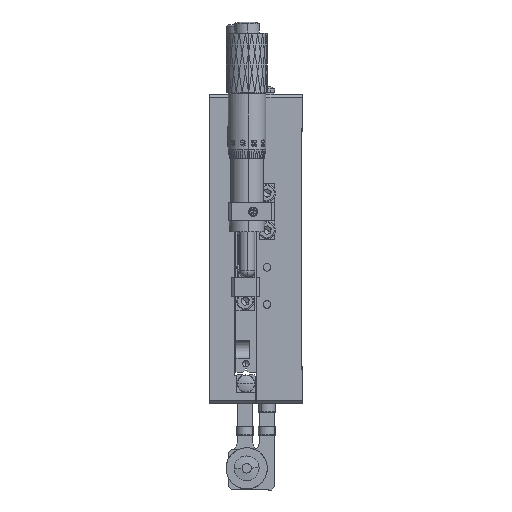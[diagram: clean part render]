
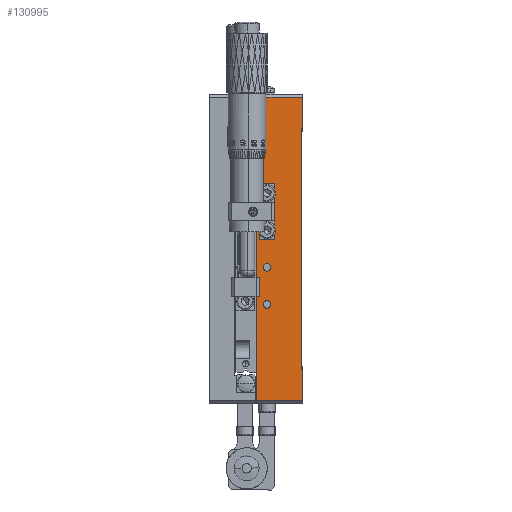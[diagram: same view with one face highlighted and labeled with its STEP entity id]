
A CAD part, left-side view. The second image highlights one B-rep face of the part: STEP entity #130995.
In plain terms, the highlighted planar face has unit normal (-1, 0, 0).
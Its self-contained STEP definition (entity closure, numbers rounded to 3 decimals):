
#444 = EDGE_CURVE ( 'NONE', #167606, #164506, #120265, .T. ) ;
#3139 = DIRECTION ( 'NONE',  ( 0., 1., 0. ) ) ;
#3412 = CARTESIAN_POINT ( 'NONE',  ( 4.935, 99.969, 112.083 ) ) ;
#3823 = CIRCLE ( 'NONE', #29826, 1.25 ) ;
#4065 = VECTOR ( 'NONE', #3139, 1000. ) ;
#4152 = VERTEX_POINT ( 'NONE', #114587 ) ;
#5233 = CARTESIAN_POINT ( 'NONE',  ( 4.935, 96.669, 66.833 ) ) ;
#6429 = LINE ( 'NONE', #3412, #172275 ) ;
#7164 = CARTESIAN_POINT ( 'NONE',  ( 4.935, 85.619, 23.083 ) ) ;
#9481 = AXIS2_PLACEMENT_3D ( 'NONE', #76870, #138975, #201202 ) ;
#11038 = DIRECTION ( 'NONE',  ( 0., 0., -1. ) ) ;
#12181 = CARTESIAN_POINT ( 'NONE',  ( 4.935, 96.669, 42.833 ) ) ;
#13773 = VECTOR ( 'NONE', #137700, 1000. ) ;
#13946 = FACE_BOUND ( 'NONE', #64406, .T. ) ;
#14056 = CARTESIAN_POINT ( 'NONE',  ( 4.935, 96.669, 68.083 ) ) ;
#15086 = AXIS2_PLACEMENT_3D ( 'NONE', #81365, #176141, #79383 ) ;
#15745 = ORIENTED_EDGE ( 'NONE', *, *, #99794, .F. ) ;
#16960 = PLANE ( 'NONE',  #71307 ) ;
#18373 = VECTOR ( 'NONE', #50839, 1000. ) ;
#19486 = CIRCLE ( 'NONE', #91055, 1.25 ) ;
#20090 = ORIENTED_EDGE ( 'NONE', *, *, #59194, .T. ) ;
#20189 = EDGE_CURVE ( 'NONE', #105071, #180792, #44476, .T. ) ;
#22303 = CARTESIAN_POINT ( 'NONE',  ( 4.935, 96.669, 69.333 ) ) ;
#26700 = ORIENTED_EDGE ( 'NONE', *, *, #130347, .T. ) ;
#27144 = CIRCLE ( 'NONE', #88962, 1.25 ) ;
#27810 = ORIENTED_EDGE ( 'NONE', *, *, #201625, .F. ) ;
#28064 = CARTESIAN_POINT ( 'NONE',  ( 4.935, 85.219, 112.083 ) ) ;
#28172 = EDGE_LOOP ( 'NONE', ( #15745, #20090, #123977, #152128, #164662, #143104, #26700, #97115 ) ) ;
#29082 = ORIENTED_EDGE ( 'NONE', *, *, #20189, .F. ) ;
#29826 = AXIS2_PLACEMENT_3D ( 'NONE', #107235, #139832, #62390 ) ;
#29950 = CIRCLE ( 'NONE', #173277, 1.25 ) ;
#30823 = CARTESIAN_POINT ( 'NONE',  ( 4.935, 96.669, 80.083 ) ) ;
#34252 = CARTESIAN_POINT ( 'NONE',  ( 4.935, 96.669, 45.333 ) ) ;
#35068 = AXIS2_PLACEMENT_3D ( 'NONE', #14056, #167971, #11038 ) ;
#38534 = DIRECTION ( 'NONE',  ( 0., 0., -1. ) ) ;
#39543 = CARTESIAN_POINT ( 'NONE',  ( 4.935, 85.219, 13.083 ) ) ;
#42971 = CARTESIAN_POINT ( 'NONE',  ( 4.935, 85.219, 111.083 ) ) ;
#43170 = VECTOR ( 'NONE', #38534, 1000. ) ;
#43926 = EDGE_CURVE ( 'NONE', #86201, #82526, #139215, .T. ) ;
#44476 = CIRCLE ( 'NONE', #15086, 1.25 ) ;
#44848 = VERTEX_POINT ( 'NONE', #154724 ) ;
#50839 = DIRECTION ( 'NONE',  ( 0., 0., -1. ) ) ;
#51663 = CIRCLE ( 'NONE', #9481, 1.25 ) ;
#51996 = LINE ( 'NONE', #7164, #4065 ) ;
#52860 = LINE ( 'NONE', #115012, #18373 ) ;
#55172 = VERTEX_POINT ( 'NONE', #77590 ) ;
#58118 = DIRECTION ( 'NONE',  ( 0., -1., 0. ) ) ;
#59047 = CARTESIAN_POINT ( 'NONE',  ( 4.935, 85.219, 23.083 ) ) ;
#59054 = EDGE_CURVE ( 'NONE', #195081, #55172, #60232, .T. ) ;
#59194 = EDGE_CURVE ( 'NONE', #191410, #89960, #51996, .T. ) ;
#60232 = LINE ( 'NONE', #200922, #13773 ) ;
#62390 = DIRECTION ( 'NONE',  ( 0., 0., -1. ) ) ;
#63562 = VERTEX_POINT ( 'NONE', #107153 ) ;
#64406 = EDGE_LOOP ( 'NONE', ( #27810, #159505 ) ) ;
#69135 = LINE ( 'NONE', #115970, #43170 ) ;
#71307 = AXIS2_PLACEMENT_3D ( 'NONE', #93398, #169888, #155589 ) ;
#74693 = EDGE_LOOP ( 'NONE', ( #112264, #181137 ) ) ;
#76141 = FACE_OUTER_BOUND ( 'NONE', #28172, .T. ) ;
#76870 = CARTESIAN_POINT ( 'NONE',  ( 4.935, 96.669, 56.083 ) ) ;
#77590 = CARTESIAN_POINT ( 'NONE',  ( 4.935, 85.219, 101.083 ) ) ;
#78464 = AXIS2_PLACEMENT_3D ( 'NONE', #132037, #148348, #86176 ) ;
#79383 = DIRECTION ( 'NONE',  ( 0., 0., -1. ) ) ;
#81103 = EDGE_CURVE ( 'NONE', #82526, #86201, #27144, .T. ) ;
#81365 = CARTESIAN_POINT ( 'NONE',  ( 4.935, 96.669, 44.083 ) ) ;
#82526 = VERTEX_POINT ( 'NONE', #22303 ) ;
#86176 = DIRECTION ( 'NONE',  ( 0., 0., -1. ) ) ;
#86201 = VERTEX_POINT ( 'NONE', #5233 ) ;
#88962 = AXIS2_PLACEMENT_3D ( 'NONE', #160125, #191713, #130530 ) ;
#89638 = VECTOR ( 'NONE', #105113, 1000. ) ;
#89960 = VERTEX_POINT ( 'NONE', #121644 ) ;
#91055 = AXIS2_PLACEMENT_3D ( 'NONE', #30823, #155150, #163201 ) ;
#93398 = CARTESIAN_POINT ( 'NONE',  ( 4.935, 85.219, 112.083 ) ) ;
#97115 = ORIENTED_EDGE ( 'NONE', *, *, #444, .T. ) ;
#99794 = EDGE_CURVE ( 'NONE', #191410, #164506, #52860, .T. ) ;
#100776 = EDGE_LOOP ( 'NONE', ( #152330, #142006 ) ) ;
#105071 = VERTEX_POINT ( 'NONE', #12181 ) ;
#105113 = DIRECTION ( 'NONE',  ( 0., 1., 0. ) ) ;
#107153 = CARTESIAN_POINT ( 'NONE',  ( 4.935, 85.219, 111.083 ) ) ;
#107235 = CARTESIAN_POINT ( 'NONE',  ( 4.935, 96.669, 56.083 ) ) ;
#107759 = VERTEX_POINT ( 'NONE', #180725 ) ;
#108690 = FACE_BOUND ( 'NONE', #150842, .T. ) ;
#109679 = FACE_BOUND ( 'NONE', #100776, .T. ) ;
#111971 = VECTOR ( 'NONE', #200318, 1000. ) ;
#112264 = ORIENTED_EDGE ( 'NONE', *, *, #115364, .F. ) ;
#113954 = EDGE_CURVE ( 'NONE', #180792, #105071, #140257, .T. ) ;
#114587 = CARTESIAN_POINT ( 'NONE',  ( 4.935, 96.669, 57.333 ) ) ;
#115012 = CARTESIAN_POINT ( 'NONE',  ( 4.935, 85.219, 112.083 ) ) ;
#115364 = EDGE_CURVE ( 'NONE', #145741, #4152, #3823, .T. ) ;
#115970 = CARTESIAN_POINT ( 'NONE',  ( 4.935, 85.619, 12.083 ) ) ;
#118554 = CARTESIAN_POINT ( 'NONE',  ( 4.935, 96.669, 54.833 ) ) ;
#120265 = LINE ( 'NONE', #150886, #162204 ) ;
#121644 = CARTESIAN_POINT ( 'NONE',  ( 4.935, 85.619, 23.083 ) ) ;
#123977 = ORIENTED_EDGE ( 'NONE', *, *, #142770, .F. ) ;
#125411 = CARTESIAN_POINT ( 'NONE',  ( 4.935, 96.669, 80.083 ) ) ;
#126068 = EDGE_CURVE ( 'NONE', #4152, #145741, #51663, .T. ) ;
#127425 = DIRECTION ( 'NONE',  ( 0., 0., -1. ) ) ;
#130347 = EDGE_CURVE ( 'NONE', #44848, #167606, #6429, .T. ) ;
#130530 = DIRECTION ( 'NONE',  ( 0., 0., -1. ) ) ;
#130995 = ADVANCED_FACE ( 'NONE', ( #13946, #109679, #200474, #108690, #76141 ), #16960, .F. ) ;
#132037 = CARTESIAN_POINT ( 'NONE',  ( 4.935, 96.669, 44.083 ) ) ;
#137700 = DIRECTION ( 'NONE',  ( 0., -1., 0. ) ) ;
#138975 = DIRECTION ( 'NONE',  ( -1., 0., 0. ) ) ;
#139215 = CIRCLE ( 'NONE', #35068, 1.25 ) ;
#139832 = DIRECTION ( 'NONE',  ( -1., 0., 0. ) ) ;
#140257 = CIRCLE ( 'NONE', #78464, 1.25 ) ;
#142006 = ORIENTED_EDGE ( 'NONE', *, *, #81103, .F. ) ;
#142770 = EDGE_CURVE ( 'NONE', #195081, #89960, #69135, .T. ) ;
#143104 = ORIENTED_EDGE ( 'NONE', *, *, #179781, .T. ) ;
#145437 = EDGE_CURVE ( 'NONE', #63562, #55172, #171737, .T. ) ;
#145741 = VERTEX_POINT ( 'NONE', #118554 ) ;
#148348 = DIRECTION ( 'NONE',  ( -1., 0., 0. ) ) ;
#150842 = EDGE_LOOP ( 'NONE', ( #29082, #179047 ) ) ;
#150886 = CARTESIAN_POINT ( 'NONE',  ( 4.935, 85.219, 13.083 ) ) ;
#152128 = ORIENTED_EDGE ( 'NONE', *, *, #59054, .T. ) ;
#152330 = ORIENTED_EDGE ( 'NONE', *, *, #43926, .F. ) ;
#154724 = CARTESIAN_POINT ( 'NONE',  ( 4.935, 99.969, 111.083 ) ) ;
#155150 = DIRECTION ( 'NONE',  ( -1., 0., 0. ) ) ;
#155589 = DIRECTION ( 'NONE',  ( 0., 0., 1. ) ) ;
#159505 = ORIENTED_EDGE ( 'NONE', *, *, #192659, .F. ) ;
#160125 = CARTESIAN_POINT ( 'NONE',  ( 4.935, 96.669, 68.083 ) ) ;
#162204 = VECTOR ( 'NONE', #58118, 1000. ) ;
#163201 = DIRECTION ( 'NONE',  ( 0., 0., -1. ) ) ;
#164506 = VERTEX_POINT ( 'NONE', #39543 ) ;
#164662 = ORIENTED_EDGE ( 'NONE', *, *, #145437, .F. ) ;
#167606 = VERTEX_POINT ( 'NONE', #175827 ) ;
#167971 = DIRECTION ( 'NONE',  ( -1., 0., 0. ) ) ;
#168948 = CARTESIAN_POINT ( 'NONE',  ( 4.935, 96.669, 81.333 ) ) ;
#169888 = DIRECTION ( 'NONE',  ( 1., 0., 0. ) ) ;
#171737 = LINE ( 'NONE', #28064, #111971 ) ;
#172275 = VECTOR ( 'NONE', #190905, 1000. ) ;
#173277 = AXIS2_PLACEMENT_3D ( 'NONE', #125411, #186615, #127425 ) ;
#175665 = VERTEX_POINT ( 'NONE', #168948 ) ;
#175827 = CARTESIAN_POINT ( 'NONE',  ( 4.935, 99.969, 13.083 ) ) ;
#176141 = DIRECTION ( 'NONE',  ( -1., 0., 0. ) ) ;
#179047 = ORIENTED_EDGE ( 'NONE', *, *, #113954, .F. ) ;
#179781 = EDGE_CURVE ( 'NONE', #63562, #44848, #182602, .T. ) ;
#180725 = CARTESIAN_POINT ( 'NONE',  ( 4.935, 96.669, 78.833 ) ) ;
#180792 = VERTEX_POINT ( 'NONE', #34252 ) ;
#181137 = ORIENTED_EDGE ( 'NONE', *, *, #126068, .F. ) ;
#182602 = LINE ( 'NONE', #42971, #89638 ) ;
#186615 = DIRECTION ( 'NONE',  ( -1., 0., 0. ) ) ;
#190020 = CARTESIAN_POINT ( 'NONE',  ( 4.935, 85.619, 101.083 ) ) ;
#190905 = DIRECTION ( 'NONE',  ( 0., 0., -1. ) ) ;
#191410 = VERTEX_POINT ( 'NONE', #59047 ) ;
#191713 = DIRECTION ( 'NONE',  ( -1., 0., 0. ) ) ;
#192659 = EDGE_CURVE ( 'NONE', #175665, #107759, #19486, .T. ) ;
#195081 = VERTEX_POINT ( 'NONE', #190020 ) ;
#200318 = DIRECTION ( 'NONE',  ( 0., 0., -1. ) ) ;
#200474 = FACE_BOUND ( 'NONE', #74693, .T. ) ;
#200922 = CARTESIAN_POINT ( 'NONE',  ( 4.935, 85.219, 101.083 ) ) ;
#201202 = DIRECTION ( 'NONE',  ( 0., 0., -1. ) ) ;
#201625 = EDGE_CURVE ( 'NONE', #107759, #175665, #29950, .T. ) ;
